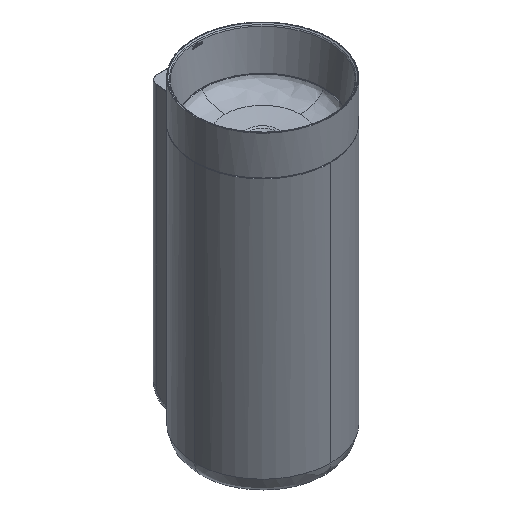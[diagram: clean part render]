
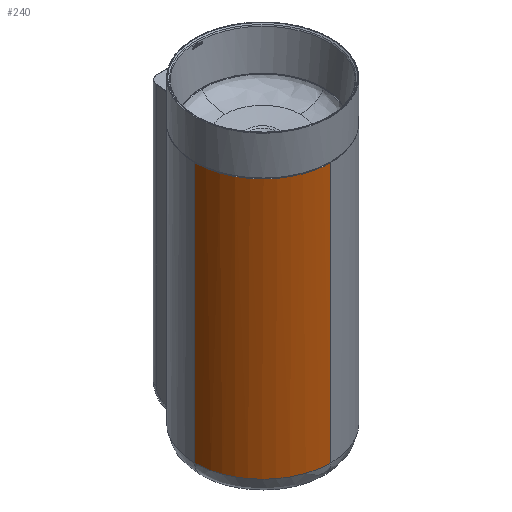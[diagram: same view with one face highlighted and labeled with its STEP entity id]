
A CAD part, isometric view. The second image highlights one B-rep face of the part: STEP entity #240.
In plain terms, the highlighted cylindrical face has radius 180 mm (diameter 360 mm), a partial arc.
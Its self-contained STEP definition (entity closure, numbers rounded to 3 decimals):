
#26=CYLINDRICAL_SURFACE('',#3722,180.);
#240=ADVANCED_FACE('',(#497),#26,.T.);
#497=FACE_OUTER_BOUND('',#754,.T.);
#754=EDGE_LOOP('',(#1444,#1445,#1446,#1447));
#1444=ORIENTED_EDGE('',*,*,#2317,.T.);
#1445=ORIENTED_EDGE('',*,*,#2316,.F.);
#1446=ORIENTED_EDGE('',*,*,#2315,.F.);
#1447=ORIENTED_EDGE('',*,*,#2301,.F.);
#2301=EDGE_CURVE('',#3321,#3322,#2960,.T.);
#2315=EDGE_CURVE('',#3322,#3331,#2730,.T.);
#2316=EDGE_CURVE('',#3331,#3332,#2967,.T.);
#2317=EDGE_CURVE('',#3321,#3332,#2731,.T.);
#2730=B_SPLINE_CURVE_WITH_KNOTS('',1,(#13926,#13927),.UNSPECIFIED.,.F.,
 .F.,(2,2),(351.857,697.605),.UNSPECIFIED.);
#2731=B_SPLINE_CURVE_WITH_KNOTS('',1,(#13931,#13932),.UNSPECIFIED.,.F.,
 .F.,(2,2),(351.857,697.605),.UNSPECIFIED.);
#2960=(
BOUNDED_CURVE()
B_SPLINE_CURVE(2,(#13821,#13822,#13823),.UNSPECIFIED.,.F.,.F.)
B_SPLINE_CURVE_WITH_KNOTS((3,3),(-282.743,0.),.UNSPECIFIED.)
CURVE()
GEOMETRIC_REPRESENTATION_ITEM()
RATIONAL_B_SPLINE_CURVE((1.,0.707,1.))
REPRESENTATION_ITEM('')
);
#2967=(
BOUNDED_CURVE()
B_SPLINE_CURVE(2,(#13928,#13929,#13930),.UNSPECIFIED.,.F.,.F.)
B_SPLINE_CURVE_WITH_KNOTS((3,3),(0.,281.172),
 .UNSPECIFIED.)
CURVE()
GEOMETRIC_REPRESENTATION_ITEM()
RATIONAL_B_SPLINE_CURVE((1.,0.707,1.))
REPRESENTATION_ITEM('')
);
#3321=VERTEX_POINT('',#12907);
#3322=VERTEX_POINT('',#12908);
#3331=VERTEX_POINT('',#12917);
#3332=VERTEX_POINT('',#12918);
#3722=AXIS2_PLACEMENT_3D('',#8738,#3812,$);
#3812=DIRECTION('',(0.,0.,1.));
#8738=CARTESIAN_POINT('',(7153.316,-19.999,-22356.136));
#12907=CARTESIAN_POINT('',(7153.316,-199.999,-22701.136));
#12908=CARTESIAN_POINT('',(6973.316,-20.,-22701.136));
#12917=CARTESIAN_POINT('',(6973.316,-20.,-22012.136));
#12918=CARTESIAN_POINT('',(7153.316,-199.999,-22012.136));
#13821=CARTESIAN_POINT('',(7153.316,-199.999,-22701.136));
#13822=CARTESIAN_POINT('',(6973.316,-199.999,-22701.136));
#13823=CARTESIAN_POINT('',(6973.316,-20.,-22701.136));
#13926=CARTESIAN_POINT('',(6973.316,-20.,-22701.136));
#13927=CARTESIAN_POINT('',(6973.316,-20.,-22012.136));
#13928=CARTESIAN_POINT('',(6973.316,-20.,-22012.136));
#13929=CARTESIAN_POINT('',(6973.316,-199.999,-22012.136));
#13930=CARTESIAN_POINT('',(7153.316,-199.999,-22012.136));
#13931=CARTESIAN_POINT('',(7153.316,-199.999,-22701.136));
#13932=CARTESIAN_POINT('',(7153.316,-199.999,-22012.136));
